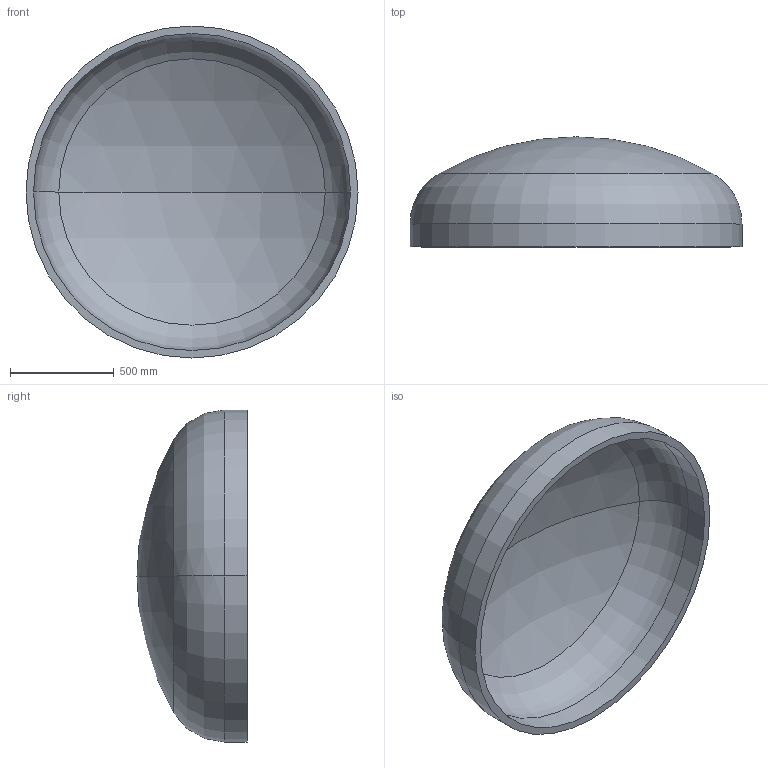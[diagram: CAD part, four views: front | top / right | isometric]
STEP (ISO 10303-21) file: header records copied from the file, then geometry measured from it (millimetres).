
FILE_DESCRIPTION (( 'STEP AP203' ), '1' );
FILE_NAME ('DIN 28013 Korbbogenform_-_Boden DIN 28013 - 1600 x 110 - I - s=36.step', '2016-07-01T11:14:10', ( '' ), ( '' ), 'SwSTEP 2.0', 'SolidWorks 2013', '' );
FILE_SCHEMA (( 'CONFIG_CONTROL_DESIGN' ));
Length unit declared in the file: millimetre
Products named in the file (1): DIN 28013 Korbbogenform_-_Boden DIN 28013 - 1600 x 110 - I - s=36
Bounding box: 1600 x 530.53 x 1600 mm (x, y, z)
Volume: 116674855.3 mm3; surface area: 6661533 mm2
Topology: 1 solids, 1 shells, 13 faces, 24 edges, 14 vertices
Faces by surface type: torus 4, cylinder 4, sphere 4, plane 1
Entity records: 407 total; most frequent: DIRECTION 72, CARTESIAN_POINT 52, ORIENTED_EDGE 48, AXIS2_PLACEMENT_3D 34, EDGE_CURVE 24, CIRCLE 20, EDGE_LOOP 14, VERTEX_POINT 14
